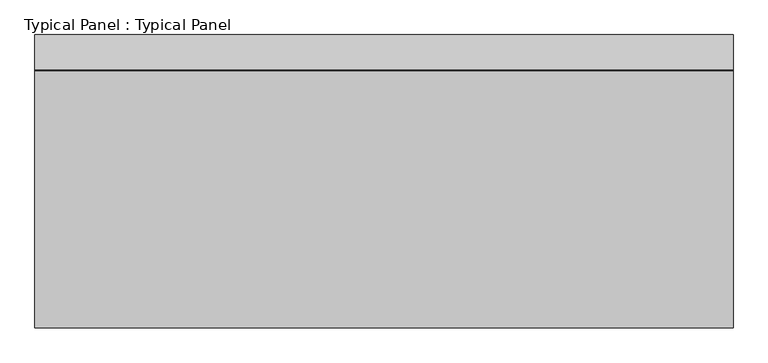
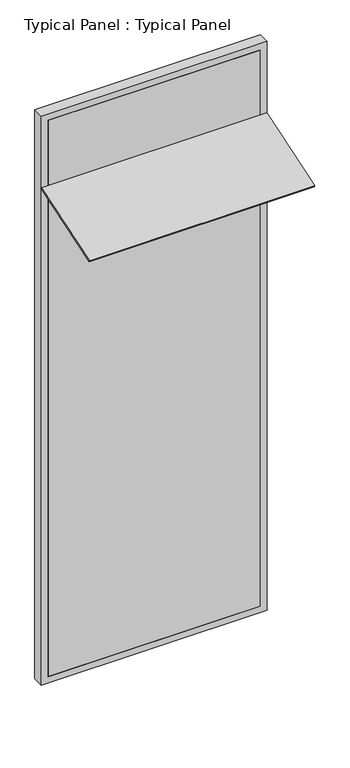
"""IFC4 building model written with IfcOpenShell, lengths in millimetres: plate geometry, Typical Panel : Typical Panel."""

from ifc_helpers import new_model, si_unit, frame, origin, place, context, project, spatial, polyline, outline, extrude, source, transform, mapped, element, save


def typical_panel_typical_panel_f84c47da(model_context):
    return source(origin(), model_context, "Body", "SweptSolid", [
        extrude(outline(polyline([(0.0, -579.9999999), (0.0, 0.0), (1500.00002, 0.0), (1500.00002, -579.9999999), (0.0, -579.9999999)])), frame((750.00001, -553.5226095, 3311.2595781), z_axis=(0.0, -0.3090169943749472, 0.9510565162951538), x_axis=(-1.0, 0.0, 0.0)), (0.0, 0.0, 1.0), 10.0),
        extrude(outline(polyline([(0.0, -750.00001), (0.0, 750.00001), (4000.0, 750.00001), (4000.0, -750.00001), (0.0, -750.00001)]), holes=[polyline([(45.0, 705.00001), (45.0, -705.00001), (3955.0, -705.00001), (3955.0, 705.00001), (45.0, 705.00001)])]), frame((0.0, -1.5797986, 0.0), z_axis=(0.0, 1.0, 0.0), x_axis=(0.0, 0.0, 1.0)), (0.0, 0.0, 1.0), 75.0),
        extrude(outline(polyline([(705.00001, -1.5797986), (-705.00001, -1.5797986), (-705.00001, 13.4202014), (705.00001, 13.4202014), (705.00001, -1.5797986)])), frame((0.0, 0.0, 45.0), z_axis=(0.0, 0.0, 1.0), x_axis=(1.0, 0.0, 0.0)), (0.0, 0.0, 1.0), 3910.0),
    ])


if __name__ == "__main__":
    model = new_model("IFC4")
    model_context = context("Model", 3, world=origin())
    ifc_project = project(units=[si_unit("LENGTHUNIT", "METRE", prefix="MILLI")], contexts=[model_context])
    site = spatial("IfcSite", under=ifc_project)
    building = spatial("IfcBuilding", under=site)
    placement = place(None, origin())
    typical_panel_typical_panel_shape = typical_panel_typical_panel_f84c47da(model_context)
    element("IfcPlate", 1, ObjectType="Typical Panel : Typical Panel", at=placement, inside=building, context=model_context, shape_type="MappedRepresentation", body=[
        mapped(typical_panel_typical_panel_shape, transform((0.0, 0.0, 0.0), x_axis=(1.0, 0.0, 0.0), y_axis=(0.0, 1.0, 0.0), z_axis=(0.0, 0.0, 1.0))),
    ])
    save(model, "model.ifc")
